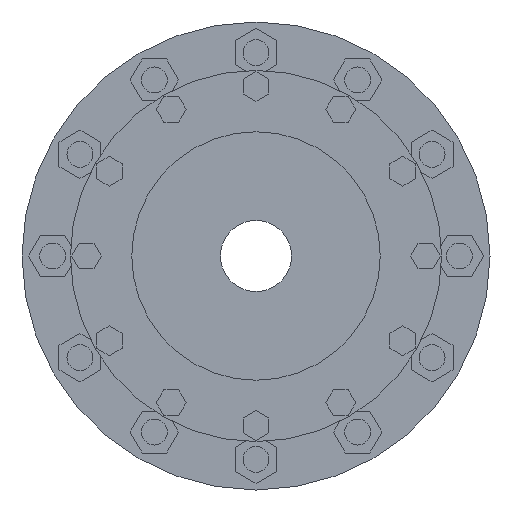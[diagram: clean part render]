
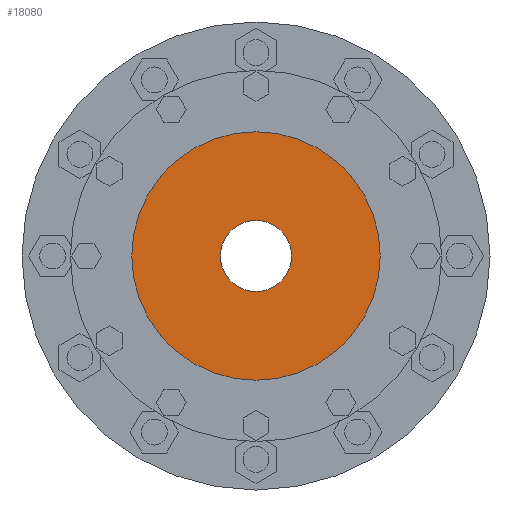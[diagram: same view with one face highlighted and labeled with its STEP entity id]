
A CAD part, left-side view. The second image highlights one B-rep face of the part: STEP entity #18080.
In plain terms, the highlighted planar face has unit normal (-1, 0, 0).
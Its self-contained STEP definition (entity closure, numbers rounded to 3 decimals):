
#17778=CARTESIAN_POINT('',(-138.,0.,0.));
#17779=DIRECTION('',(1.,0.,0.));
#17780=DIRECTION('',(0.,1.,0.));
#17781=AXIS2_PLACEMENT_3D('',#17778,#17779,#17780);
#17857=CARTESIAN_POINT('',(-138.,0.,0.));
#17858=DIRECTION('',(-1.,0.,0.));
#17859=DIRECTION('',(0.,1.,0.));
#17860=AXIS2_PLACEMENT_3D('',#17857,#17858,#17859);
#17862=CARTESIAN_POINT('',(-138.,0.,0.));
#17863=DIRECTION('',(1.,0.,0.));
#17864=DIRECTION('',(0.,1.,0.));
#17865=AXIS2_PLACEMENT_3D('',#17862,#17863,#17864);
#17876=CARTESIAN_POINT('',(-138.,0.,0.));
#17877=DIRECTION('',(-1.,0.,0.));
#17878=DIRECTION('',(0.,1.,0.));
#17879=AXIS2_PLACEMENT_3D('',#17876,#17877,#17878);
#17885=CARTESIAN_POINT('',(-138.,11.,0.));
#17886=CARTESIAN_POINT('',(-138.,-11.,0.));
#17887=VERTEX_POINT('',#17885);
#17888=VERTEX_POINT('',#17886);
#17889=CARTESIAN_POINT('',(-138.,38.5,0.));
#17890=CARTESIAN_POINT('',(-138.,-38.5,0.));
#17891=VERTEX_POINT('',#17889);
#17892=VERTEX_POINT('',#17890);
#18066=CARTESIAN_POINT('',(-138.,0.,0.));
#18067=DIRECTION('',(1.,0.,0.));
#18068=DIRECTION('',(0.,-1.,0.));
#18069=AXIS2_PLACEMENT_3D('',#18066,#18067,#18068);
#18070=PLANE('',#18069);
#18071=ORIENTED_EDGE('',*,*,#18048,.F.);
#18072=ORIENTED_EDGE('',*,*,#18061,.T.);
#18073=EDGE_LOOP('',(#18071,#18072));
#18074=FACE_OUTER_BOUND('',#18073,.F.);
#18075=ORIENTED_EDGE('',*,*,#17926,.F.);
#18077=ORIENTED_EDGE('',*,*,#18076,.T.);
#18078=EDGE_LOOP('',(#18075,#18077));
#18079=FACE_BOUND('',#18078,.F.);
#18080=ADVANCED_FACE('',(#18074,#18079),#18070,.F.);
#17782=CIRCLE('',#17781,11.);
#17861=CIRCLE('',#17860,38.5);
#17866=CIRCLE('',#17865,38.5);
#17880=CIRCLE('',#17879,11.);
#17926=EDGE_CURVE('',#17887,#17888,#17782,.T.);
#18048=EDGE_CURVE('',#17891,#17892,#17861,.T.);
#18061=EDGE_CURVE('',#17891,#17892,#17866,.T.);
#18076=EDGE_CURVE('',#17887,#17888,#17880,.T.);
